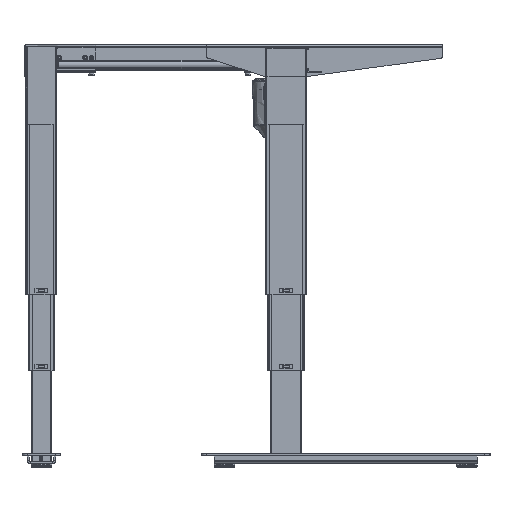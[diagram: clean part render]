
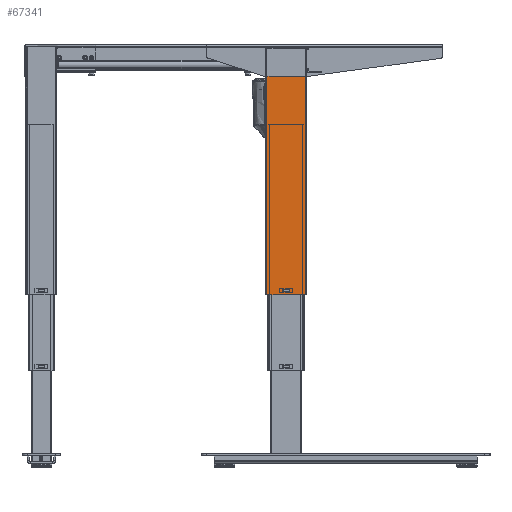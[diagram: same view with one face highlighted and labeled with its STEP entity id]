
A CAD part, left-side view. The second image highlights one B-rep face of the part: STEP entity #67341.
In plain terms, the highlighted planar face has unit normal (-1, 0, 0).
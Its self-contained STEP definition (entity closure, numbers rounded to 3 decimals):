
#847 = LINE ( 'NONE', #12723, #96868 ) ;
#2934 = ORIENTED_EDGE ( 'NONE', *, *, #19894, .T. ) ;
#7062 = EDGE_CURVE ( 'NONE', #72614, #27783, #53178, .T. ) ;
#8134 = VECTOR ( 'NONE', #47493, 1000. ) ;
#10791 = EDGE_CURVE ( 'NONE', #103857, #85648, #847, .T. ) ;
#11812 = LINE ( 'NONE', #56441, #49662 ) ;
#12186 = LINE ( 'NONE', #32862, #48816 ) ;
#12455 = DIRECTION ( 'NONE',  ( 0., 0., -1. ) ) ;
#12723 = CARTESIAN_POINT ( 'NONE',  ( -30., 6., 10. ) ) ;
#13258 = EDGE_CURVE ( 'NONE', #85648, #72614, #25826, .T. ) ;
#13825 = ORIENTED_EDGE ( 'NONE', *, *, #7062, .T. ) ;
#14347 = CARTESIAN_POINT ( 'NONE',  ( -30., -6., 10. ) ) ;
#19894 = EDGE_CURVE ( 'NONE', #90748, #52894, #11812, .T. ) ;
#21811 = FACE_OUTER_BOUND ( 'NONE', #49043, .T. ) ;
#21830 = DIRECTION ( 'NONE',  ( 0., -1., 0. ) ) ;
#22176 = CARTESIAN_POINT ( 'NONE',  ( -30., 6., 6. ) ) ;
#23064 = CARTESIAN_POINT ( 'NONE',  ( -30., 37., 480. ) ) ;
#23419 = DIRECTION ( 'NONE',  ( 1., 0., 0. ) ) ;
#25826 = LINE ( 'NONE', #14347, #8134 ) ;
#25972 = CARTESIAN_POINT ( 'NONE',  ( -30., 37., 0. ) ) ;
#26010 = AXIS2_PLACEMENT_3D ( 'NONE', #23064, #23419, #71802 ) ;
#27783 = VERTEX_POINT ( 'NONE', #22176 ) ;
#31932 = VECTOR ( 'NONE', #62318, 1000. ) ;
#32862 = CARTESIAN_POINT ( 'NONE',  ( -30., 37., 0. ) ) ;
#33681 = EDGE_CURVE ( 'NONE', #27783, #103857, #86246, .T. ) ;
#34293 = CARTESIAN_POINT ( 'NONE',  ( -30., -40., 475. ) ) ;
#37945 = VECTOR ( 'NONE', #83071, 1000. ) ;
#39971 = VERTEX_POINT ( 'NONE', #72982 ) ;
#43283 = FACE_BOUND ( 'NONE', #79967, .T. ) ;
#46429 = ORIENTED_EDGE ( 'NONE', *, *, #33681, .T. ) ;
#47493 = DIRECTION ( 'NONE',  ( 0., 0., -1. ) ) ;
#48816 = VECTOR ( 'NONE', #73860, 1000. ) ;
#49043 = EDGE_LOOP ( 'NONE', ( #55005, #85959, #2934, #66408 ) ) ;
#49662 = VECTOR ( 'NONE', #88591, 1000. ) ;
#51825 = CARTESIAN_POINT ( 'NONE',  ( -30., 37., 475. ) ) ;
#52894 = VERTEX_POINT ( 'NONE', #25972 ) ;
#53178 = LINE ( 'NONE', #104155, #63257 ) ;
#54405 = CARTESIAN_POINT ( 'NONE',  ( -30., -37., 0. ) ) ;
#54425 = ORIENTED_EDGE ( 'NONE', *, *, #13258, .T. ) ;
#55005 = ORIENTED_EDGE ( 'NONE', *, *, #68170, .F. ) ;
#56441 = CARTESIAN_POINT ( 'NONE',  ( -30., 37., 480. ) ) ;
#61639 = CARTESIAN_POINT ( 'NONE',  ( -30., 6., 10. ) ) ;
#62318 = DIRECTION ( 'NONE',  ( 0., 0., 1. ) ) ;
#63257 = VECTOR ( 'NONE', #73085, 1000. ) ;
#65867 = VECTOR ( 'NONE', #12455, 1000. ) ;
#66408 = ORIENTED_EDGE ( 'NONE', *, *, #103596, .T. ) ;
#67341 = ADVANCED_FACE ( 'NONE', ( #43283, #21811 ), #71451, .F. ) ;
#68170 = EDGE_CURVE ( 'NONE', #39971, #78920, #98737, .T. ) ;
#71451 = PLANE ( 'NONE',  #26010 ) ;
#71802 = DIRECTION ( 'NONE',  ( 0., 1., 0. ) ) ;
#72326 = CARTESIAN_POINT ( 'NONE',  ( -30., -6., 10. ) ) ;
#72614 = VERTEX_POINT ( 'NONE', #74621 ) ;
#72982 = CARTESIAN_POINT ( 'NONE',  ( -30., -37., 475. ) ) ;
#73085 = DIRECTION ( 'NONE',  ( 0., 1., 0. ) ) ;
#73860 = DIRECTION ( 'NONE',  ( 0., -1., 0. ) ) ;
#74621 = CARTESIAN_POINT ( 'NONE',  ( -30., -6., 6. ) ) ;
#78428 = LINE ( 'NONE', #34293, #37945 ) ;
#78920 = VERTEX_POINT ( 'NONE', #54405 ) ;
#79967 = EDGE_LOOP ( 'NONE', ( #46429, #96129, #54425, #13825 ) ) ;
#83071 = DIRECTION ( 'NONE',  ( 0., 1., 0. ) ) ;
#85425 = CARTESIAN_POINT ( 'NONE',  ( -30., 6., 10. ) ) ;
#85648 = VERTEX_POINT ( 'NONE', #72326 ) ;
#85959 = ORIENTED_EDGE ( 'NONE', *, *, #92791, .T. ) ;
#86177 = CARTESIAN_POINT ( 'NONE',  ( -30., -37., 480. ) ) ;
#86246 = LINE ( 'NONE', #61639, #31932 ) ;
#88591 = DIRECTION ( 'NONE',  ( 0., 0., -1. ) ) ;
#90748 = VERTEX_POINT ( 'NONE', #51825 ) ;
#92791 = EDGE_CURVE ( 'NONE', #39971, #90748, #78428, .T. ) ;
#96129 = ORIENTED_EDGE ( 'NONE', *, *, #10791, .T. ) ;
#96868 = VECTOR ( 'NONE', #21830, 1000. ) ;
#98737 = LINE ( 'NONE', #86177, #65867 ) ;
#103596 = EDGE_CURVE ( 'NONE', #52894, #78920, #12186, .T. ) ;
#103857 = VERTEX_POINT ( 'NONE', #85425 ) ;
#104155 = CARTESIAN_POINT ( 'NONE',  ( -30., 6., 6. ) ) ;
